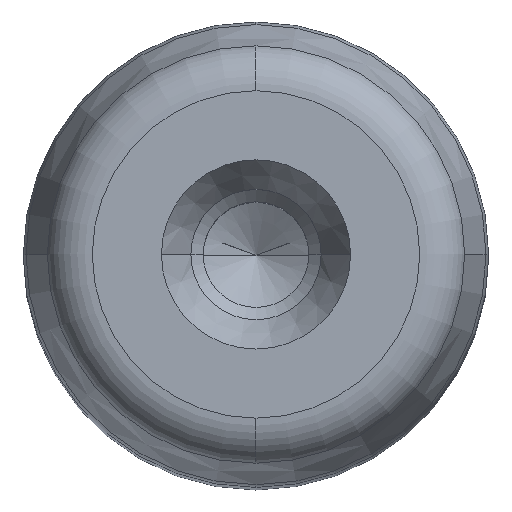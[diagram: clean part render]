
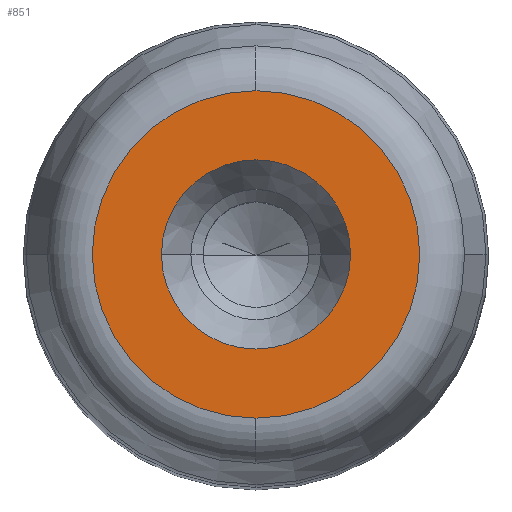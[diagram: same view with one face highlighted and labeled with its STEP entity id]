
A CAD part, top view. The second image highlights one B-rep face of the part: STEP entity #851.
In plain terms, the highlighted planar face has unit normal (0, 0, 1) as drawn and (0, 1, 0) by its records, which use the part's own axes.
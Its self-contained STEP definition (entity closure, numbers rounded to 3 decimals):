
#281=CARTESIAN_POINT('',(6.1,110.0,0.0));
#282=VERTEX_POINT('',#281);
#289=CARTESIAN_POINT('',(-6.1,110.0,0.));
#290=VERTEX_POINT('',#289);
#291=CARTESIAN_POINT('',(0.0,110.0,0.0));
#292=DIRECTION('',(0.0,1.0,0.0));
#293=DIRECTION('',(1.0,0.0,0.0));
#294=AXIS2_PLACEMENT_3D('',#291,#292,#293);
#295=CIRCLE('',#294,6.1);
#296=EDGE_CURVE('',#282,#290,#295,.T.);
#313=CARTESIAN_POINT('',(0.0,110.0,10.554));
#314=VERTEX_POINT('',#313);
#324=CARTESIAN_POINT('',(0.,110.0,-10.554));
#325=VERTEX_POINT('',#324);
#326=CARTESIAN_POINT('',(0.0,110.0,0.0));
#327=DIRECTION('',(0.0,1.0,0.0));
#328=DIRECTION('',(1.0,0.0,0.0));
#329=AXIS2_PLACEMENT_3D('',#326,#327,#328);
#330=CIRCLE('',#329,10.554);
#331=EDGE_CURVE('',#325,#314,#330,.T.);
#812=CARTESIAN_POINT('',(10.554,110.0,0.0));
#813=VERTEX_POINT('',#812);
#814=CARTESIAN_POINT('',(0.0,110.0,0.0));
#815=DIRECTION('',(0.0,1.0,0.0));
#816=DIRECTION('',(1.0,0.0,0.0));
#817=AXIS2_PLACEMENT_3D('',#814,#815,#816);
#818=CIRCLE('',#817,10.554);
#819=EDGE_CURVE('',#813,#325,#818,.T.);
#821=CARTESIAN_POINT('',(0.0,110.0,0.0));
#822=DIRECTION('',(0.0,1.0,0.0));
#823=DIRECTION('',(1.0,0.0,0.0));
#824=AXIS2_PLACEMENT_3D('',#821,#822,#823);
#825=CIRCLE('',#824,10.554);
#826=EDGE_CURVE('',#314,#813,#825,.T.);
#831=CARTESIAN_POINT('',(-11.61,110.0,-11.61));
#832=DIRECTION('',(0.0,1.0,0.0));
#833=DIRECTION('',(0.0,0.0,1.0));
#834=AXIS2_PLACEMENT_3D('',#831,#832,#833);
#835=PLANE('',#834);
#836=ORIENTED_EDGE('',*,*,#819,.T.);
#837=ORIENTED_EDGE('',*,*,#331,.T.);
#838=ORIENTED_EDGE('',*,*,#826,.T.);
#839=EDGE_LOOP('',(#836,#837,#838));
#840=FACE_OUTER_BOUND('',#839,.T.);
#841=ORIENTED_EDGE('',*,*,#296,.F.);
#842=CARTESIAN_POINT('',(0.0,110.0,0.0));
#843=DIRECTION('',(0.0,1.0,0.0));
#844=DIRECTION('',(1.0,0.0,0.0));
#845=AXIS2_PLACEMENT_3D('',#842,#843,#844);
#846=CIRCLE('',#845,6.1);
#847=EDGE_CURVE('',#290,#282,#846,.T.);
#848=ORIENTED_EDGE('',*,*,#847,.F.);
#849=EDGE_LOOP('',(#841,#848));
#850=FACE_BOUND('',#849,.T.);
#851=ADVANCED_FACE('',(#840,#850),#835,.T.);
